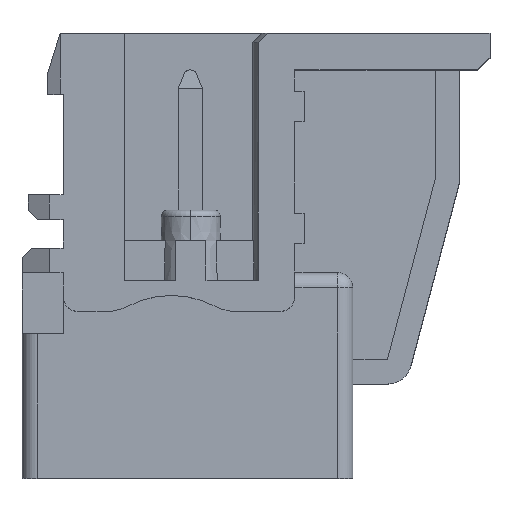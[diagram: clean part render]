
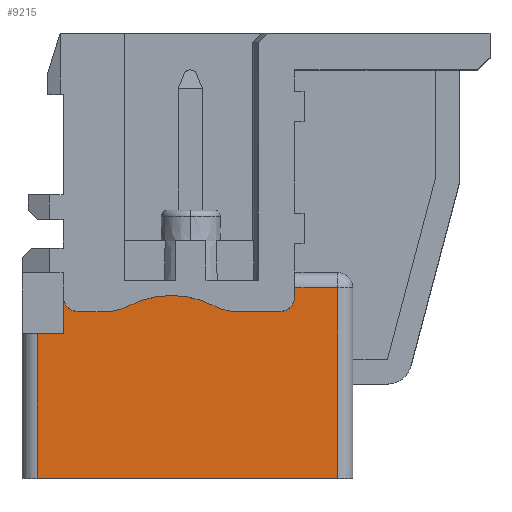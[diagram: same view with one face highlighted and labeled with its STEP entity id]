
A CAD part, top view. The second image highlights one B-rep face of the part: STEP entity #9215.
In plain terms, the highlighted planar face has unit normal (0, 0, 1).
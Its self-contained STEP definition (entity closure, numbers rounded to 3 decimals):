
#242=DIRECTION('',(0.,-1.,0.));
#243=VECTOR('',#242,1.222);
#244=CARTESIAN_POINT('',(-6.95,-8.628,14.7));
#245=LINE('',#244,#243);
#250=DIRECTION('',(-1.,0.,0.));
#251=VECTOR('',#250,0.85);
#252=CARTESIAN_POINT('',(-6.95,-9.85,14.7));
#253=LINE('',#252,#251);
#263=CARTESIAN_POINT('',(-3.4,-11.678,14.7));
#264=DIRECTION('',(0.,0.,-1.));
#265=DIRECTION('',(-0.466,0.885,0.));
#266=AXIS2_PLACEMENT_3D('',#263,#264,#265);
#268=DIRECTION('',(1.,0.,0.));
#269=VECTOR('',#268,1.416);
#270=CARTESIAN_POINT('',(-1.266,-9.128,14.7));
#271=LINE('',#270,#269);
#272=CARTESIAN_POINT('',(0.15,-8.628,14.7));
#273=DIRECTION('',(0.,0.,1.));
#274=DIRECTION('',(0.,-1.,0.));
#275=AXIS2_PLACEMENT_3D('',#272,#273,#274);
#277=DIRECTION('',(0.,1.,0.));
#278=VECTOR('',#277,0.278);
#279=CARTESIAN_POINT('',(0.65,-8.628,14.7));
#280=LINE('',#279,#278);
#281=DIRECTION('',(-1.,0.,0.));
#282=VECTOR('',#281,1.4);
#283=CARTESIAN_POINT('',(2.05,-8.35,14.7));
#284=LINE('',#283,#282);
#285=DIRECTION('',(0.,1.,0.));
#286=VECTOR('',#285,6.25);
#287=CARTESIAN_POINT('',(2.05,-14.6,14.7));
#288=LINE('',#287,#286);
#289=DIRECTION('',(0.,-1.,0.));
#290=VECTOR('',#289,4.75);
#291=CARTESIAN_POINT('',(-7.8,-9.85,14.7));
#292=LINE('',#291,#290);
#293=CARTESIAN_POINT('',(-6.45,-8.628,14.7));
#294=DIRECTION('',(0.,0.,1.));
#295=DIRECTION('',(-1.,0.,0.));
#296=AXIS2_PLACEMENT_3D('',#293,#294,#295);
#298=DIRECTION('',(1.,0.,0.));
#299=VECTOR('',#298,0.916);
#300=CARTESIAN_POINT('',(-6.45,-9.128,14.7));
#301=LINE('',#300,#299);
#310=CARTESIAN_POINT('',(-1.266,-7.628,14.7));
#311=DIRECTION('',(0.,0.,1.));
#312=DIRECTION('',(-0.466,-0.885,0.));
#313=AXIS2_PLACEMENT_3D('',#310,#311,#312);
#785=DIRECTION('',(1.,0.,0.));
#786=VECTOR('',#785,9.85);
#787=CARTESIAN_POINT('',(-7.8,-14.6,14.7));
#788=LINE('',#787,#786);
#6870=CARTESIAN_POINT('',(-5.534,-7.628,14.7));
#6871=DIRECTION('',(0.,0.,1.));
#6872=DIRECTION('',(0.,-1.,0.));
#6873=AXIS2_PLACEMENT_3D('',#6870,#6871,#6872);
#7610=CARTESIAN_POINT('',(0.15,-9.128,14.7));
#7611=CARTESIAN_POINT('',(0.65,-8.628,14.7));
#7612=VERTEX_POINT('',#7610);
#7613=VERTEX_POINT('',#7611);
#7622=CARTESIAN_POINT('',(-6.95,-8.628,14.7));
#7623=CARTESIAN_POINT('',(-6.95,-9.85,14.7));
#7624=VERTEX_POINT('',#7622);
#7625=VERTEX_POINT('',#7623);
#7628=CARTESIAN_POINT('',(-6.45,-9.128,14.7));
#7629=VERTEX_POINT('',#7628);
#7631=CARTESIAN_POINT('',(-7.8,-14.6,14.7));
#7633=VERTEX_POINT('',#7631);
#7634=CARTESIAN_POINT('',(-7.8,-9.85,14.7));
#7635=VERTEX_POINT('',#7634);
#7638=CARTESIAN_POINT('',(2.05,-8.35,14.7));
#7639=CARTESIAN_POINT('',(0.65,-8.35,14.7));
#7640=VERTEX_POINT('',#7638);
#7641=VERTEX_POINT('',#7639);
#7652=CARTESIAN_POINT('',(2.05,-14.6,14.7));
#7654=VERTEX_POINT('',#7652);
#7660=CARTESIAN_POINT('',(-1.965,-8.955,14.7));
#7661=VERTEX_POINT('',#7660);
#7662=CARTESIAN_POINT('',(-1.266,-9.128,14.7));
#7663=VERTEX_POINT('',#7662);
#7668=CARTESIAN_POINT('',(-5.534,-9.128,14.7));
#7669=VERTEX_POINT('',#7668);
#7670=CARTESIAN_POINT('',(-4.835,-8.955,14.7));
#7671=VERTEX_POINT('',#7670);
#9182=CARTESIAN_POINT('',(0.,0.,14.7));
#9183=DIRECTION('',(0.,0.,-1.));
#9184=DIRECTION('',(-1.,0.,0.));
#9185=AXIS2_PLACEMENT_3D('',#9182,#9183,#9184);
#9186=PLANE('',#9185);
#9188=ORIENTED_EDGE('',*,*,#9187,.T.);
#9190=ORIENTED_EDGE('',*,*,#9189,.T.);
#9192=ORIENTED_EDGE('',*,*,#9191,.T.);
#9194=ORIENTED_EDGE('',*,*,#9193,.T.);
#9196=ORIENTED_EDGE('',*,*,#9195,.T.);
#9198=ORIENTED_EDGE('',*,*,#9197,.F.);
#9200=ORIENTED_EDGE('',*,*,#9199,.F.);
#9202=ORIENTED_EDGE('',*,*,#9201,.F.);
#9204=ORIENTED_EDGE('',*,*,#9203,.F.);
#9205=ORIENTED_EDGE('',*,*,#9171,.F.);
#9206=ORIENTED_EDGE('',*,*,#9160,.F.);
#9208=ORIENTED_EDGE('',*,*,#9207,.T.);
#9210=ORIENTED_EDGE('',*,*,#9209,.T.);
#9212=ORIENTED_EDGE('',*,*,#9211,.T.);
#9213=EDGE_LOOP('',(#9188,#9190,#9192,#9194,#9196,#9198,#9200,#9202,#9204,#9205,
#9206,#9208,#9210,#9212));
#9214=FACE_OUTER_BOUND('',#9213,.F.);
#9215=ADVANCED_FACE('',(#9214),#9186,.F.);
#267=CIRCLE('',#266,3.078);
#276=CIRCLE('',#275,0.5);
#297=CIRCLE('',#296,0.5);
#314=CIRCLE('',#313,1.5);
#6874=CIRCLE('',#6873,1.5);
#9160=EDGE_CURVE('',#7624,#7625,#245,.T.);
#9171=EDGE_CURVE('',#7625,#7635,#253,.T.);
#9187=EDGE_CURVE('',#7671,#7661,#267,.T.);
#9189=EDGE_CURVE('',#7661,#7663,#314,.T.);
#9191=EDGE_CURVE('',#7663,#7612,#271,.T.);
#9193=EDGE_CURVE('',#7612,#7613,#276,.T.);
#9195=EDGE_CURVE('',#7613,#7641,#280,.T.);
#9197=EDGE_CURVE('',#7640,#7641,#284,.T.);
#9199=EDGE_CURVE('',#7654,#7640,#288,.T.);
#9201=EDGE_CURVE('',#7633,#7654,#788,.T.);
#9203=EDGE_CURVE('',#7635,#7633,#292,.T.);
#9207=EDGE_CURVE('',#7624,#7629,#297,.T.);
#9209=EDGE_CURVE('',#7629,#7669,#301,.T.);
#9211=EDGE_CURVE('',#7669,#7671,#6874,.T.);
